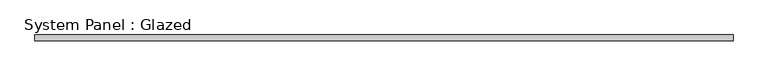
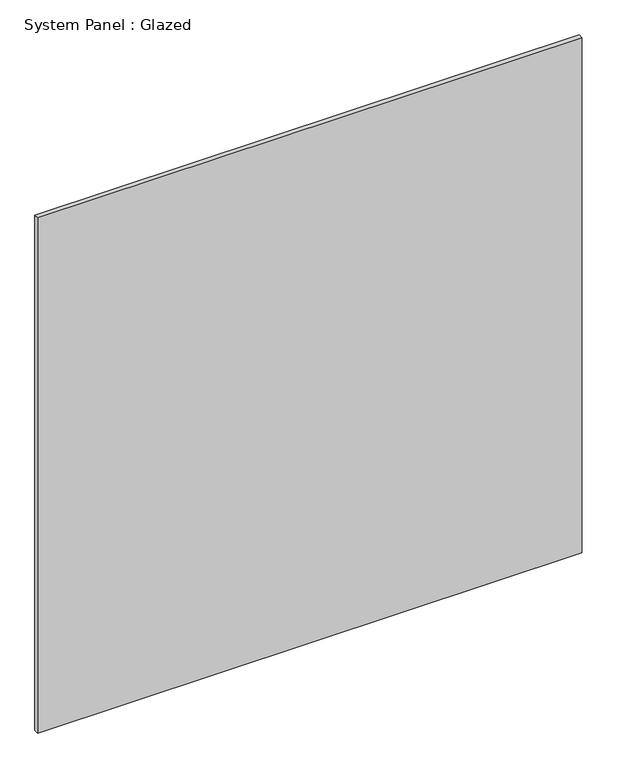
"""IFC4 building model written with IfcOpenShell, lengths in millimetres: plate geometry, System Panel : Glazed."""

from ifc_helpers import new_model, si_unit, origin, origin_with_axes, place, context, project, spatial, polyline, outline, extrude, source, transform, mapped, element, save


def system_panel_glazed_aa64d645(model_context):
    return source(origin(), model_context, "Body", "SweptSolid", [
        extrude(outline(polyline([(1524.0, -44.45), (-1524.0, -44.45), (-1524.0, -19.05), (1524.0, -19.05), (1524.0, -44.45)])), origin_with_axes(), (0.0, 0.0, 1.0), 3048.0),
    ])


if __name__ == "__main__":
    model = new_model("IFC4")
    model_context = context("Model", 3, world=origin())
    ifc_project = project(units=[si_unit("LENGTHUNIT", "METRE", prefix="MILLI")], contexts=[model_context])
    site = spatial("IfcSite", under=ifc_project)
    building = spatial("IfcBuilding", under=site)
    placement = place(None, origin())
    system_panel_glazed_shape = system_panel_glazed_aa64d645(model_context)
    element("IfcPlate", 1, ObjectType="System Panel : Glazed", at=placement, inside=building, context=model_context, shape_type="MappedRepresentation", body=[
        mapped(system_panel_glazed_shape, transform((0.0, 0.0, 0.0), x_axis=(1.0, 0.0, 0.0), y_axis=(0.0, 1.0, 0.0), z_axis=(0.0, 0.0, 1.0))),
    ])
    save(model, "model.ifc")
